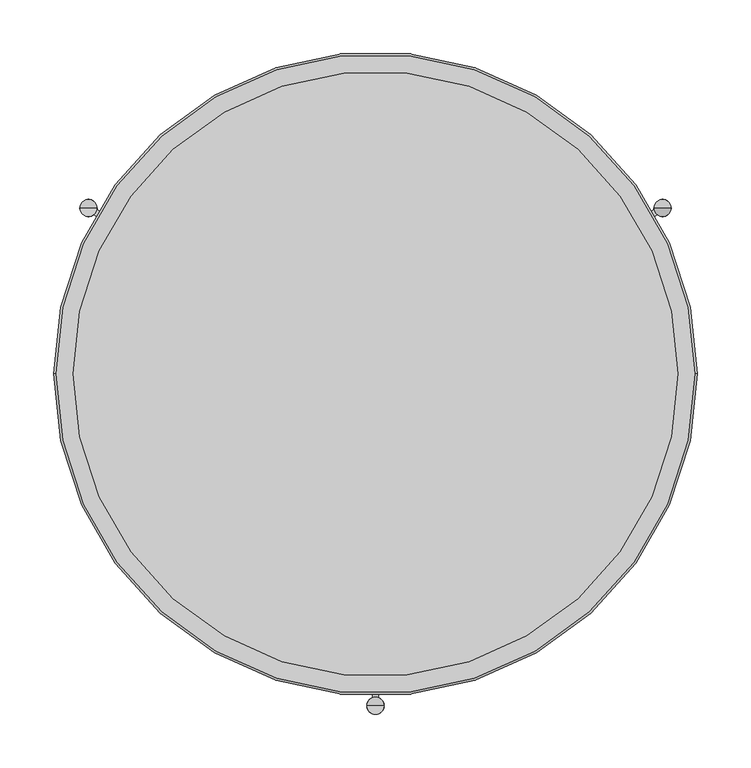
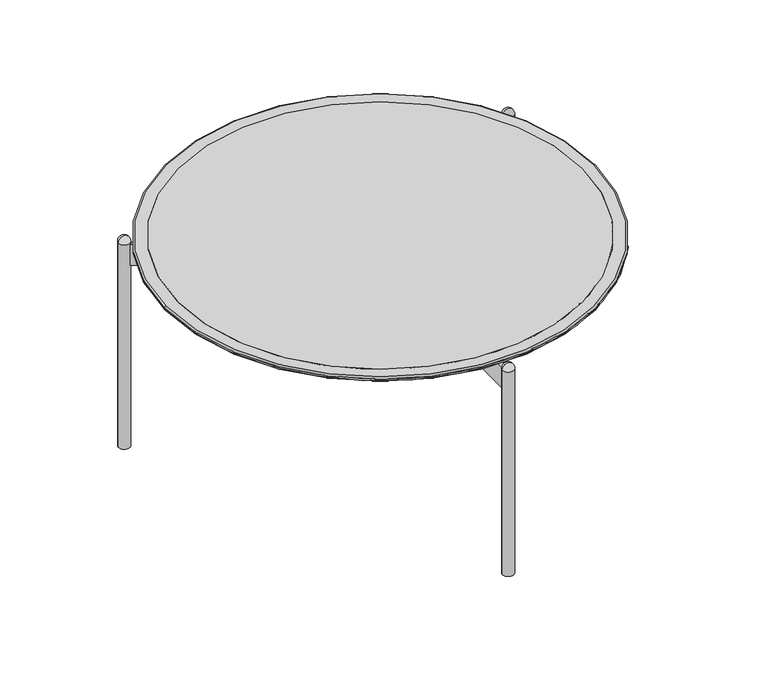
"""IFC4 building model written with IfcOpenShell, lengths in millimetres: furniture geometry, ROUND TABLE_H=31 : EI131B050060A_F."""

from ifc_helpers import new_model, si_unit, point, frame, frame_2d, origin, origin_with_axes, origin_2d, place, context, project, spatial, polyline, circle_curve, ellipse_curve, trimmed, segment, composite_curve, outline, extrude, source, transform, mapped, element, save
from ifc_brep_helpers import plane_surface, cylinder_surface, revolved_surface, advanced_brep


def furniture_d06894ee(model_context):
    return source(origin(), model_context, "Body", "SolidModel", [
        advanced_brep(
        [(-281.6888354, 0.0, 309.6939464), (281.6888354, 0.0, 309.6939464), (271.7931495, 0.0, 297.6939464), (-271.7931495, 0.0, 297.6939464), (-281.6888354, 0.0, 302.9555759), (281.6888354, 0.0, 302.9555759)],
        [
            (0, 1, circle_curve(frame((0.0, 0.0, 309.6939464), z_axis=(0.0, 0.0, 1.0), x_axis=(1.0, 0.0, 0.0)), 281.6888354)),
            (1, 0, circle_curve(frame((0.0, 0.0, 309.6939464), z_axis=(0.0, 0.0, 1.0), x_axis=(1.0, 0.0, 0.0)), 281.6888354)),
            (2, 3, circle_curve(frame((0.0, 0.0, 297.6939464), z_axis=(0.0, 0.0, -1.0), x_axis=(-1.0, 0.0, 0.0)), 271.7931495)),
            (3, 2, circle_curve(frame((0.0, 0.0, 297.6939464), z_axis=(0.0, 0.0, -1.0), x_axis=(1.0, 0.0, 0.0)), 271.7931495)),
            (0, 4),
            (4, 5, circle_curve(frame((0.0, 0.0, 302.9555759), z_axis=(0.0, 0.0, 1.0), x_axis=(1.0, 0.0, 0.0)), 281.6888354)),
            (5, 1),
            (5, 4, circle_curve(frame((0.0, 0.0, 302.9555759), z_axis=(0.0, 0.0, 1.0), x_axis=(1.0, 0.0, 0.0)), 281.6888354)),
            (4, 3),
            (2, 5),
        ],
        [
            plane_surface(frame((281.6888354, 0.0, 309.6939464), z_axis=(0.0, 0.0, 1.0), x_axis=(0.0, 1.0, 0.0))),
            plane_surface(frame((281.6888354, 0.0, 297.6939464), z_axis=(0.0, 0.0, -1.0), x_axis=(0.0, -1.0, 0.0))),
            cylinder_surface(frame((0.0, 0.0, 297.6939464), z_axis=(0.0, 0.0, 1.0), x_axis=(1.0, 0.0, 0.0)), 281.6888354),
            revolved_surface(polyline([(-271.7931495, 0.0, 297.6939464), (-298.6736789, 0.0, 311.9865774)]), (0.0, 0.0, 297.6939464), (0.0, 0.0, 1.0)),
            revolved_surface(polyline([(271.7931495, 0.0, 297.6939464), (298.6736789, 0.0, 311.9865774)]), (0.0, 0.0, 297.6939464), (0.0, 0.0, 1.0)),
        ],
        [
            (0, [[1, 2]]),
            (1, [[3, 4]]),
            (2, [[-1, 5, 6, 7]]),
            (2, [[-2, -7, 8, -5]]),
            (3, [[9, -3, 10, -6]]),
            (4, [[-9, -8, -10, -4]]),
        ],
    ),
        advanced_brep(
        [(281.6888354, 0.0, 297.6939464), (-281.6888354, 0.0, 297.6939464), (-281.6888354, 0.0, 309.6939464), (281.6888354, 0.0, 309.6939464), (289.0176248, 0.0, 298.0050898), (-289.0176248, 0.0, 298.0050898), (-287.8673572, 0.0, 297.6939464), (287.8673572, 0.0, 297.6939464), (298.8983956, 0.0, 303.7097555), (-298.8983956, 0.0, 303.7097555), (299.9899008, 0.0, 305.4486469), (-299.9899008, 0.0, 305.4486469), (299.9899008, 0.0, 307.6939464), (-299.9899008, 0.0, 307.6939464), (297.9899008, 0.0, 309.6939464), (-297.9899008, 0.0, 309.6939464)],
        [
            (0, 1, circle_curve(frame((0.0, 0.0, 297.6939464), z_axis=(0.0, 0.0, -1.0), x_axis=(-1.0, 0.0, 0.0)), 281.6888354)),
            (1, 2),
            (2, 3, circle_curve(frame((0.0, 0.0, 309.6939464), z_axis=(0.0, 0.0, 1.0), x_axis=(-1.0, 0.0, 0.0)), 281.6888354)),
            (3, 0),
            (4, 5, circle_curve(frame((0.0, 0.0, 298.0050898), z_axis=(0.0, 0.0, -1.0), x_axis=(-1.0, 0.0, 0.0)), 289.0176248)),
            (5, 6, circle_curve(frame((-287.8673572, 0.0, 299.9757328), z_axis=(0.0, -1.0, 0.0), x_axis=(1.0, 0.0, 0.0)), 2.2817865)),
            (6, 7, circle_curve(frame((0.0, 0.0, 297.6939464), z_axis=(0.0, 0.0, 1.0), x_axis=(-1.0, 0.0, 0.0)), 287.8673572)),
            (7, 4, circle_curve(frame((287.8673572, 0.0, 299.9757328), z_axis=(0.0, -1.0, 0.0), x_axis=(-1.0, 0.0, 0.0)), 2.2817865)),
            (8, 9, circle_curve(frame((0.0, 0.0, 303.7097555), z_axis=(0.0, 0.0, -1.0), x_axis=(-1.0, 0.0, 0.0)), 298.8983956)),
            (9, 5),
            (4, 8),
            (10, 11, circle_curve(frame((0.0, 0.0, 305.4486469), z_axis=(0.0, 0.0, -1.0), x_axis=(-1.0, 0.0, 0.0)), 299.9899008)),
            (11, 9, circle_curve(frame((-297.8009023, 0.0, 305.6106696), z_axis=(0.0, -1.0, 0.0), x_axis=(1.0, 0.0, 0.0)), 2.1949866)),
            (8, 10, circle_curve(frame((297.8009023, 0.0, 305.6106696), z_axis=(0.0, -1.0, 0.0), x_axis=(-1.0, 0.0, 0.0)), 2.1949866)),
            (12, 13, circle_curve(frame((0.0, 0.0, 307.6939464), z_axis=(0.0, 0.0, -1.0), x_axis=(-1.0, 0.0, 0.0)), 299.9899008)),
            (13, 11),
            (10, 12),
            (14, 15, circle_curve(frame((0.0, 0.0, 309.6939464), z_axis=(0.0, 0.0, -1.0), x_axis=(-1.0, 0.0, 0.0)), 297.9899008)),
            (15, 13, circle_curve(frame((-297.9899008, 0.0, 307.6939464), z_axis=(0.0, -1.0, 0.0), x_axis=(1.0, 0.0, 0.0)), 2.0)),
            (12, 14, circle_curve(frame((297.9899008, 0.0, 307.6939464), z_axis=(0.0, -1.0, 0.0), x_axis=(-1.0, 0.0, 0.0)), 2.0)),
            (1, 0, circle_curve(frame((0.0, 0.0, 297.6939464), z_axis=(0.0, 0.0, -1.0), x_axis=(1.0, 0.0, 0.0)), 281.6888354)),
            (3, 2, circle_curve(frame((0.0, 0.0, 309.6939464), z_axis=(0.0, 0.0, 1.0), x_axis=(1.0, 0.0, 0.0)), 281.6888354)),
            (6, 7, circle_curve(frame((0.0, 0.0, 297.6939464), z_axis=(0.0, 0.0, -1.0), x_axis=(1.0, 0.0, 0.0)), 287.8673572)),
            (5, 4, circle_curve(frame((0.0, 0.0, 298.0050898), z_axis=(0.0, 0.0, -1.0), x_axis=(1.0, 0.0, 0.0)), 289.0176248)),
            (9, 8, circle_curve(frame((0.0, 0.0, 303.7097555), z_axis=(0.0, 0.0, -1.0), x_axis=(1.0, 0.0, 0.0)), 298.8983956)),
            (11, 10, circle_curve(frame((0.0, 0.0, 305.4486469), z_axis=(0.0, 0.0, -1.0), x_axis=(1.0, 0.0, 0.0)), 299.9899008)),
            (13, 12, circle_curve(frame((0.0, 0.0, 307.6939464), z_axis=(0.0, 0.0, -1.0), x_axis=(1.0, 0.0, 0.0)), 299.9899008)),
            (15, 14, circle_curve(frame((0.0, 0.0, 309.6939464), z_axis=(0.0, 0.0, -1.0), x_axis=(1.0, 0.0, 0.0)), 297.9899008)),
        ],
        [
            revolved_surface(polyline([(-281.6888354, 0.0, 309.6939464), (-281.6888354, 0.0, 297.6939464)]), (0.0, 0.0, 297.6939464), (0.0, 0.0, 1.0)),
            revolved_surface(trimmed(ellipse_curve(frame((-287.8673572, 0.0, 299.9757328), z_axis=(0.0, 1.0, 0.0), x_axis=(1.0, 0.0, 0.0)), 2.2817865, 2.2817865), [point((-287.8673572, 0.0, 297.6939464))], [point((-289.0176248, 0.0, 298.0050898))], True, "CARTESIAN"), (0.0, 0.0, 297.6939464), (0.0, 0.0, 1.0)),
            revolved_surface(polyline([(-289.0176248, 0.0, 298.0050898), (-298.8983956, 0.0, 303.7097555)]), (0.0, 0.0, 297.6939464), (0.0, 0.0, 1.0)),
            revolved_surface(trimmed(ellipse_curve(frame((-297.8009023, 0.0, 305.6106696), z_axis=(0.0, 1.0, 0.0), x_axis=(1.0, 0.0, 0.0)), 2.1949866, 2.1949866), [point((-298.8983956, 0.0, 303.7097555))], [point((-299.9899008, 0.0, 305.4486469))], True, "CARTESIAN"), (0.0, 0.0, 297.6939464), (0.0, 0.0, 1.0)),
            cylinder_surface(frame((0.0, 0.0, 297.6939464), z_axis=(0.0, 0.0, 1.0), x_axis=(-1.0, 0.0, 0.0)), 299.9899008),
            revolved_surface(trimmed(ellipse_curve(frame((-297.9899008, 0.0, 307.6939464), z_axis=(0.0, 1.0, 0.0), x_axis=(1.0, 0.0, 0.0)), 2.0, 2.0), [point((-299.9899008, 0.0, 307.6939464))], [point((-297.9899008, 0.0, 309.6939464))], True, "CARTESIAN"), (0.0, 0.0, 297.6939464), (0.0, 0.0, 1.0)),
            revolved_surface(polyline([(281.6888354, 0.0, 309.6939464), (281.6888354, 0.0, 297.6939464)]), (0.0, 0.0, 297.6939464), (0.0, 0.0, 1.0)),
            plane_surface(frame((0.0, 0.0, 297.6939464), z_axis=(0.0, 0.0, -1.0), x_axis=(1.0, 0.0, 0.0))),
            revolved_surface(trimmed(ellipse_curve(frame((287.8673572, 0.0, 299.9757328), z_axis=(0.0, -1.0, 0.0), x_axis=(-1.0, 0.0, 0.0)), 2.2817865, 2.2817865), [point((287.8673572, 0.0, 297.6939464))], [point((289.0176248, 0.0, 298.0050898))], True, "CARTESIAN"), (0.0, 0.0, 297.6939464), (0.0, 0.0, 1.0)),
            revolved_surface(polyline([(289.0176248, 0.0, 298.0050898), (298.8983956, 0.0, 303.7097555)]), (0.0, 0.0, 297.6939464), (0.0, 0.0, 1.0)),
            revolved_surface(trimmed(ellipse_curve(frame((297.8009023, 0.0, 305.6106696), z_axis=(0.0, -1.0, 0.0), x_axis=(-1.0, 0.0, 0.0)), 2.1949866, 2.1949866), [point((298.8983956, 0.0, 303.7097555))], [point((299.9899008, 0.0, 305.4486469))], True, "CARTESIAN"), (0.0, 0.0, 297.6939464), (0.0, 0.0, 1.0)),
            cylinder_surface(frame((0.0, 0.0, 297.6939464), z_axis=(0.0, 0.0, 1.0), x_axis=(1.0, 0.0, 0.0)), 299.9899008),
            revolved_surface(trimmed(ellipse_curve(frame((297.9899008, 0.0, 307.6939464), z_axis=(0.0, -1.0, 0.0), x_axis=(-1.0, 0.0, 0.0)), 2.0, 2.0), [point((299.9899008, 0.0, 307.6939464))], [point((297.9899008, 0.0, 309.6939464))], True, "CARTESIAN"), (0.0, 0.0, 297.6939464), (0.0, 0.0, 1.0)),
            plane_surface(frame((0.0, 0.0, 309.6939464), z_axis=(0.0, 0.0, 1.0), x_axis=(1.0, 0.0, 0.0))),
        ],
        [
            (0, [[1, 2, 3, 4]]),
            (1, [[5, 6, 7, 8]]),
            (2, [[9, 10, -5, 11]]),
            (3, [[12, 13, -9, 14]]),
            (4, [[15, 16, -12, 17]]),
            (5, [[18, 19, -15, 20]]),
            (6, [[21, -4, 22, -2]]),
            (7, [[23, -7], [-21, -1]]),
            (8, [[24, -8, -23, -6]]),
            (9, [[25, -11, -24, -10]]),
            (10, [[26, -14, -25, -13]]),
            (11, [[27, -17, -26, -16]]),
            (12, [[28, -20, -27, -19]]),
            (13, [[-28, -18], [-22, -3]]),
        ],
    ),
        extrude(outline(composite_curve([segment(polyline([(-19.7129166, 7.9278768), (-262.7443334, 148.2421307)]), True, "CONTINUOUS"), segment(trimmed(circle_curve(frame_2d((-267.6, 154.6)), 8.0), [point((-262.7443334, 148.2421307))], [point((-259.6895089, 153.4066303))], True, "CARTESIAN"), True, "CONTINUOUS"), segment(polyline([(-259.6895089, 153.4066303), (-16.7129166, 13.1240293), (-19.7129166, 7.9278768)]), True, "CONTINUOUS")], self_intersect=False)), frame((0.0, 0.0, 267.6939464), z_axis=(0.0, 0.0, 1.0), x_axis=(1.0, 0.0, 0.0)), (0.0, 0.0, 1.0), 30.0),
        extrude(outline(composite_curve([segment(polyline([(19.7314855, 7.9171561), (16.7314855, 13.1133085), (259.6925075, 153.38692)]), True, "CONTINUOUS"), segment(trimmed(circle_curve(frame_2d((267.6, 154.6)), 8.0), [point((259.6925075, 153.38692))], [point((262.7603454, 148.2299338))], True, "CARTESIAN"), True, "CONTINUOUS"), segment(polyline([(262.7603454, 148.2299338), (19.7314855, 7.9171561)]), True, "CONTINUOUS")], self_intersect=False)), frame((0.0, 0.0, 267.6939464), z_axis=(0.0, 0.0, 1.0), x_axis=(1.0, 0.0, 0.0)), (0.0, 0.0, 1.0), 30.0),
        extrude(outline(composite_curve([segment(polyline([(3.0, -21.0411853), (3.0, -301.5838015)]), True, "CONTINUOUS"), segment(trimmed(circle_curve(frame_2d((0.0, -309.0)), 8.0), [point((3.0, -301.5838015))], [point((-3.0, -301.5838015))], True, "CARTESIAN"), True, "CONTINUOUS"), segment(polyline([(-3.0, -301.5838015), (-3.0, -21.0411853), (3.0, -21.0411853)]), True, "CONTINUOUS")], self_intersect=False)), frame((0.0, 0.0, 267.6939464), z_axis=(0.0, 0.0, 1.0), x_axis=(1.0, 0.0, 0.0)), (0.0, 0.0, 1.0), 30.0),
        advanced_brep(
        [(267.6, 154.6, 309.1666667), (259.6, 154.6, 301.1666667), (275.6, 154.6, 301.1666667), (267.6, 154.6, 301.1666667)],
        [
            (0, 1, circle_curve(frame((267.6, 154.6, 301.1666667), z_axis=(0.0, -1.0, 0.0), x_axis=(1.0, 0.0, 0.0)), 8.0)),
            (1, 2, circle_curve(frame((267.6, 154.6, 301.1666667), z_axis=(0.0, 0.0, 1.0), x_axis=(-1.0, 0.0, 0.0)), 8.0)),
            (2, 0, circle_curve(frame((267.6, 154.6, 301.1666667), z_axis=(0.0, -1.0, 0.0), x_axis=(-1.0, 0.0, 0.0)), 8.0)),
            (2, 1, circle_curve(frame((267.6, 154.6, 301.1666667), z_axis=(0.0, 0.0, 1.0), x_axis=(-1.0, 0.0, 0.0)), 8.0)),
            (1, 3),
            (3, 2),
        ],
        [
            revolved_surface(trimmed(ellipse_curve(frame((267.6, 154.6, 301.1666667), z_axis=(0.0, 1.0, 0.0), x_axis=(1.0, 0.0, 0.0)), 8.0, 8.0), [point((259.6, 154.6, 301.1666667))], [point((267.6, 154.6, 309.1666667))], True, "CARTESIAN"), (267.6, 154.6, 2498.4), (0.0, 0.0, 1.0)),
            plane_surface(frame((267.6, 154.6, 301.1666667), z_axis=(0.0, 0.0, -1.0), x_axis=(-1.0, 0.0, 0.0))),
        ],
        [
            (0, [[1, 2, 3]]),
            (0, [[-3, 4, -1]]),
            (1, [[-2, 5, 6]]),
            (1, [[-4, -6, -5]]),
        ],
    ),
        advanced_brep(
        [(267.6, 154.6, 309.1666667), (259.6, 154.6, 301.1666667), (275.6, 154.6, 301.1666667), (267.6, 154.6, 301.1666667)],
        [
            (0, 1, circle_curve(frame((267.6, 154.6, 301.1666667), z_axis=(0.0, -1.0, 0.0), x_axis=(1.0, 0.0, 0.0)), 8.0)),
            (1, 2, circle_curve(frame((267.6, 154.6, 301.1666667), z_axis=(0.0, 0.0, 1.0), x_axis=(-1.0, 0.0, 0.0)), 8.0)),
            (2, 0, circle_curve(frame((267.6, 154.6, 301.1666667), z_axis=(0.0, -1.0, 0.0), x_axis=(-1.0, 0.0, 0.0)), 8.0)),
            (2, 1, circle_curve(frame((267.6, 154.6, 301.1666667), z_axis=(0.0, 0.0, 1.0), x_axis=(-1.0, 0.0, 0.0)), 8.0)),
            (1, 3),
            (3, 2),
        ],
        [
            revolved_surface(trimmed(ellipse_curve(frame((267.6, 154.6, 301.1666667), z_axis=(0.0, 1.0, 0.0), x_axis=(1.0, 0.0, 0.0)), 8.0, 8.0), [point((259.6, 154.6, 301.1666667))], [point((267.6, 154.6, 309.1666667))], True, "CARTESIAN"), (267.6, 154.6, 2498.4), (0.0, 0.0, 1.0)),
            plane_surface(frame((267.6, 154.6, 301.1666667), z_axis=(0.0, 0.0, -1.0), x_axis=(-1.0, 0.0, 0.0))),
        ],
        [
            (0, [[1, 2, 3]]),
            (0, [[-3, 4, -1]]),
            (1, [[-2, 5, 6]]),
            (1, [[-4, -6, -5]]),
        ],
    ),
        advanced_brep(
        [(-275.6, 154.6, 301.1666667), (-259.6, 154.6, 301.1666667), (-267.6, 154.6, 309.1666667), (-267.6, 154.6, 301.1666667)],
        [
            (0, 1, circle_curve(frame((-267.6, 154.6, 301.1666667), z_axis=(0.0, 0.0, 1.0), x_axis=(1.0, 0.0, 0.0)), 8.0)),
            (1, 2, circle_curve(frame((-267.6, 154.6, 301.1666667), z_axis=(0.0, -1.0, 0.0), x_axis=(-1.0, 0.0, 0.0)), 8.0)),
            (2, 0, circle_curve(frame((-267.6, 154.6, 301.1666667), z_axis=(0.0, -1.0, 0.0), x_axis=(1.0, 0.0, 0.0)), 8.0)),
            (1, 0, circle_curve(frame((-267.6, 154.6, 301.1666667), z_axis=(0.0, 0.0, 1.0), x_axis=(1.0, 0.0, 0.0)), 8.0)),
            (3, 1),
            (0, 3),
        ],
        [
            revolved_surface(trimmed(ellipse_curve(frame((-267.6, 154.6, 301.1666667), z_axis=(0.0, 1.0, 0.0), x_axis=(-1.0, 0.0, 0.0)), 8.0, 8.0), [point((-267.6, 154.6, 309.1666667))], [point((-259.6, 154.6, 301.1666667))], True, "CARTESIAN"), (-267.6, 154.6, 2498.4), (0.0, 0.0, -1.0)),
            plane_surface(frame((-267.6, 154.6, 301.1666667), z_axis=(0.0, 0.0, -1.0), x_axis=(1.0, 0.0, 0.0))),
        ],
        [
            (0, [[1, 2, 3]]),
            (0, [[4, -3, -2]]),
            (1, [[5, -1, 6]]),
            (1, [[-6, -4, -5]]),
        ],
    ),
        advanced_brep(
        [(-8.025371, -309.0, 301.1666667), (7.974629, -309.0, 301.1666667), (-0.025371, -309.0, 309.1666667), (-0.025371, -309.0, 301.1666667)],
        [
            (0, 1, circle_curve(frame((-0.025371, -309.0, 301.1666667), z_axis=(0.0, 0.0, 1.0), x_axis=(1.0, 0.0, 0.0)), 8.0)),
            (1, 2, circle_curve(frame((-0.025371, -309.0, 301.1666667), z_axis=(0.0, -1.0, 0.0), x_axis=(-1.0, 0.0, 0.0)), 8.0)),
            (2, 0, circle_curve(frame((-0.025371, -309.0, 301.1666667), z_axis=(0.0, -1.0, 0.0), x_axis=(1.0, 0.0, 0.0)), 8.0)),
            (1, 0, circle_curve(frame((-0.025371, -309.0, 301.1666667), z_axis=(0.0, 0.0, 1.0), x_axis=(1.0, 0.0, 0.0)), 8.0)),
            (3, 1),
            (0, 3),
        ],
        [
            revolved_surface(trimmed(ellipse_curve(frame((-0.025371, -309.0, 301.1666667), z_axis=(0.0, 1.0, 0.0), x_axis=(-1.0, 0.0, 0.0)), 8.0, 8.0), [point((-0.025371, -309.0, 309.1666667))], [point((7.974629, -309.0, 301.1666667))], True, "CARTESIAN"), (-0.025371, -309.0, 2498.4), (0.0, 0.0, -1.0)),
            plane_surface(frame((-0.025371, -309.0, 301.1666667), z_axis=(0.0, 0.0, -1.0), x_axis=(1.0, 0.0, 0.0))),
        ],
        [
            (0, [[1, 2, 3]]),
            (0, [[4, -3, -2]]),
            (1, [[5, -1, 6]]),
            (1, [[-6, -4, -5]]),
        ],
    ),
        extrude(outline(composite_curve([segment(trimmed(circle_curve(origin_2d(), 23.0), [point((-23.0, 0.0))], [point((23.0, 0.0))], False, "CARTESIAN"), True, "CONTINUOUS"), segment(trimmed(circle_curve(origin_2d(), 23.0), [point((23.0, 0.0))], [point((-23.0, 0.0))], False, "CARTESIAN"), True, "CONTINUOUS")], self_intersect=False)), frame((0.0, 0.0, 267.6939464), z_axis=(0.0, 0.0, 1.0), x_axis=(1.0, 0.0, 0.0)), (0.0, 0.0, 1.0), 30.0),
        extrude(outline(composite_curve([segment(trimmed(circle_curve(frame_2d((-267.6, 154.6)), 8.0), [point((-275.6, 154.6))], [point((-259.6, 154.6))], False, "CARTESIAN"), True, "CONTINUOUS"), segment(trimmed(circle_curve(frame_2d((-267.6, 154.6)), 8.0), [point((-259.6, 154.6))], [point((-275.6, 154.6))], False, "CARTESIAN"), True, "CONTINUOUS")], self_intersect=False)), origin_with_axes(), (0.0, 0.0, 1.0), 301.1666667),
        extrude(outline(composite_curve([segment(trimmed(circle_curve(frame_2d((267.6, 154.6)), 8.0), [point((259.6, 154.6))], [point((275.6, 154.6))], False, "CARTESIAN"), True, "CONTINUOUS"), segment(trimmed(circle_curve(frame_2d((267.6, 154.6)), 8.0), [point((275.6, 154.6))], [point((259.6, 154.6))], False, "CARTESIAN"), True, "CONTINUOUS")], self_intersect=False)), origin_with_axes(), (0.0, 0.0, 1.0), 301.1666667),
        extrude(outline(composite_curve([segment(trimmed(circle_curve(frame_2d((0.0, -309.0)), 8.0), [point((-8.0, -309.0))], [point((8.0, -309.0))], False, "CARTESIAN"), True, "CONTINUOUS"), segment(trimmed(circle_curve(frame_2d((0.0, -309.0)), 8.0), [point((8.0, -309.0))], [point((-8.0, -309.0))], False, "CARTESIAN"), True, "CONTINUOUS")], self_intersect=False)), origin_with_axes(), (0.0, 0.0, 1.0), 301.1666667),
    ])


if __name__ == "__main__":
    model = new_model("IFC4")
    model_context = context("Model", 3, world=origin())
    ifc_project = project(units=[si_unit("LENGTHUNIT", "METRE", prefix="MILLI")], contexts=[model_context])
    site = spatial("IfcSite", under=ifc_project)
    building = spatial("IfcBuilding", under=site)
    placement = place(None, origin())
    furniture_shape = furniture_d06894ee(model_context)
    element("IfcFurniture", 1, ObjectType="ROUND TABLE_H=31 : EI131B050060A_F", at=placement, inside=building, context=model_context, shape_type="MappedRepresentation", body=[
        mapped(furniture_shape, transform((0.0, 0.0, 0.0), x_axis=(1.0, 0.0, 0.0), y_axis=(0.0, 1.0, 0.0), z_axis=(0.0, 0.0, 1.0))),
    ])
    save(model, "model.ifc")
